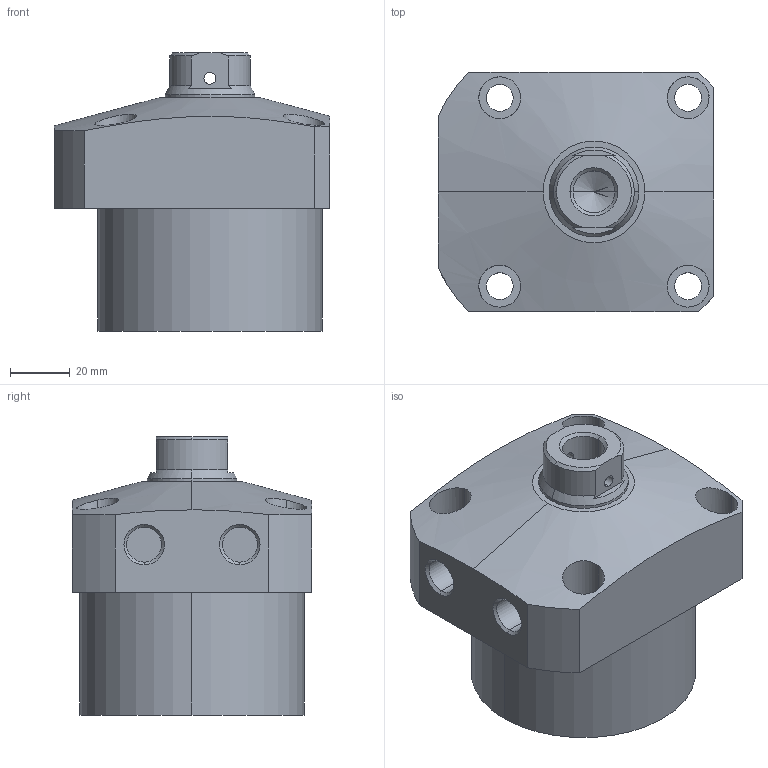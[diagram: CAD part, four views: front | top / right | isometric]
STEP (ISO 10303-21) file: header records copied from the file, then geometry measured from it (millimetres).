
FILE_DESCRIPTION (( 'STEP AP203' ), '1' );
FILE_NAME ('CLL-075CB-025.STEP', '2019-12-20T06:03:50', ( '' ), ( '' ), 'SwSTEP 2.0', 'SolidWorks 2015', '' );
FILE_SCHEMA (( 'CONFIG_CONTROL_DESIGN' ));
Length unit declared in the file: millimetre
Products named in the file (1): CLL-075CB-025
Bounding box: 92 x 80 x 93 mm (x, y, z)
Volume: 403703.2 mm3; surface area: 41015 mm2
Topology: 1 solids, 1 shells, 76 faces, 181 edges, 116 vertices
Faces by surface type: cylinder 39, plane 22, cone 15
Entity records: 2809 total; most frequent: CARTESIAN_POINT 932, DIRECTION 386, ORIENTED_EDGE 358, EDGE_CURVE 179, AXIS2_PLACEMENT_3D 158, VERTEX_POINT 116, EDGE_LOOP 99, CIRCLE 81
